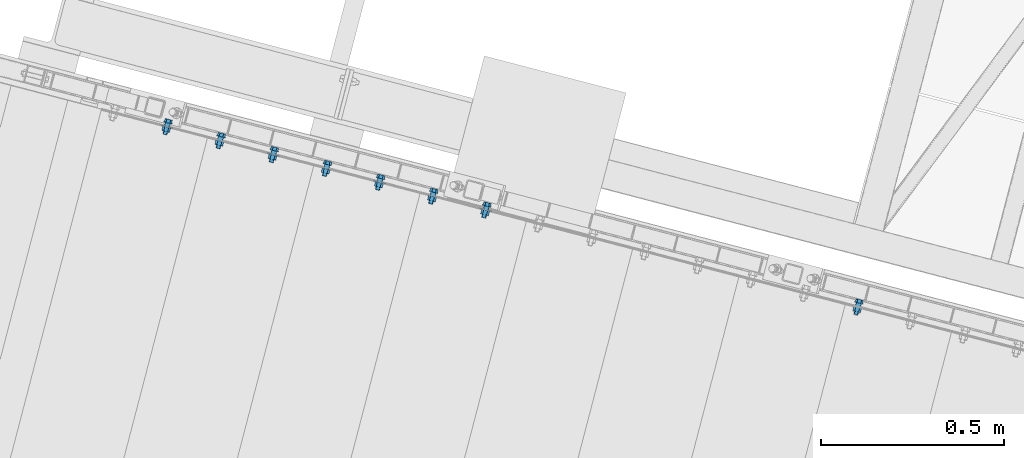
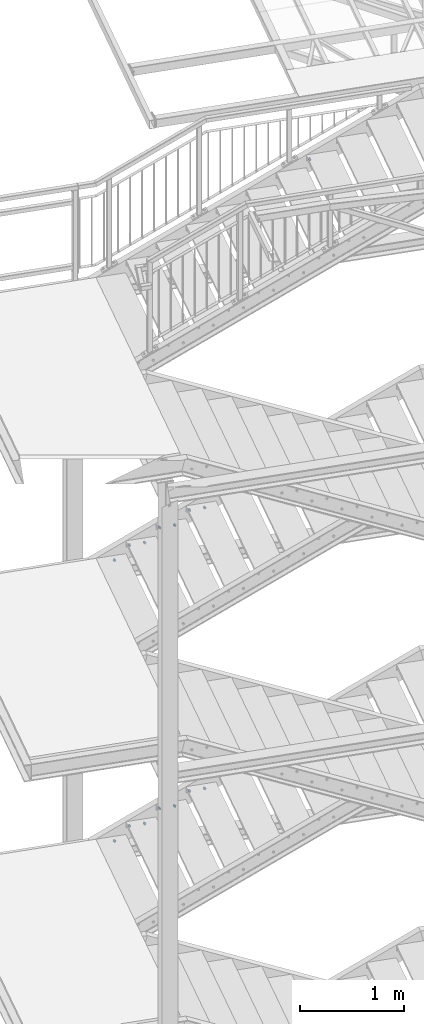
# One storey, part 149 of 169: 15 mechanical fasteners, 9 elements without a shape of their own.
"""IFC2X3 building model written with IfcOpenShell, lengths in millimetres."""

from ifc_helpers import new_model, si_unit, frame, frame_2d, origin_with_axes, origin_2d_with_axis, place, context, subcontext, project, spatial, polyline, circle_curve, parameter, trimmed, segment, composite_curve, circle, outline, extrude, source, transform, mapped, material, type_object, element, aggregate, save


model = new_model("IFC2X3")

# Units and contexts
model_context = context("Model", 3, precision=1e-05, world=origin_with_axes())
body_context = subcontext(model_context, "Body", "Model", "MODEL_VIEW")
ifc_project = project(units=[si_unit("LENGTHUNIT", "METRE", prefix="MILLI"), si_unit("AREAUNIT", "SQUARE_METRE"), si_unit("VOLUMEUNIT", "CUBIC_METRE"), si_unit("MASSUNIT", "GRAM", prefix="KILO"), si_unit("TIMEUNIT", "SECOND"), si_unit("PLANEANGLEUNIT", "RADIAN"), si_unit("SOLIDANGLEUNIT", "STERADIAN"), si_unit("THERMODYNAMICTEMPERATUREUNIT", "DEGREE_CELSIUS"), si_unit("LUMINOUSINTENSITYUNIT", "LUMEN")], contexts=[model_context])

# Site, building, storey
site_placement = place(None, origin_with_axes())
site = spatial("IfcSite", under=ifc_project, at=site_placement, Name="Undefined", CompositionType="ELEMENT")
building_placement = place(site_placement, origin_with_axes())
building = spatial("IfcBuilding", under=site, at=building_placement, Name="Undefined", CompositionType="ELEMENT")
storey_placement = place(building_placement, origin_with_axes())
storey = spatial("IfcBuildingStorey", under=building, at=storey_placement, Name="Undefined", CompositionType="ELEMENT", Elevation=0.0)

# Assembly, mechanical fastener
assembly_1_placement = place(storey_placement, origin_with_axes())
assembly_1 = element("IfcElementAssembly", 1, at=assembly_1_placement, inside=storey, Name="Steel Assembly", AssemblyPlace="NOTDEFINED", PredefinedType="RIGID_FRAME")
ifc_material = material(Name="Undefined")
discrete_accessory_type = type_object("IfcDiscreteAccessoryType", Name="Bolt assembly")
shared_shape_1 = source(origin_with_axes(), body_context, "Body", "SweptSolid", [
    extrude(circle(Radius=7.5, at=origin_2d_with_axis()), frame((0.0, -8.39999975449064, 0.0), z_axis=(0.0, 1.0, 0.0), x_axis=(1.0, 0.0, 0.0)), (0.0, 0.0, 1.0), 8.5),
    extrude(circle(Radius=7.5, at=origin_2d_with_axis()), frame((0.0, -0.100000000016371, 0.0), z_axis=(0.0, 1.0, 0.0), x_axis=(1.0, 0.0, 0.0)), (0.0, 0.0, 1.0), 3.1),
    extrude(outline(polyline([(10.39230484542, 0.0), (5.19615242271, 9.00000000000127), (-5.19615242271, 9.00000000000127), (-10.39230484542, 0.0), (-5.19615242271, -9.00000000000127), (5.19615242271, -9.00000000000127), (10.39230484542, 0.0)])), frame((0.0, -18.4999993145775, 0.0), z_axis=(0.0, 1.0, 0.0), x_axis=(1.0, 0.0, 0.0)), (0.0, 0.0, 1.0), 7.5),
    extrude(circle(Radius=6.0, at=origin_2d_with_axis()), frame((0.0, -10.9999999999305, 0.0), z_axis=(0.0, 1.0, 0.0), x_axis=(1.0, 0.0, 0.0)), (0.0, 0.0, 1.0), 35.0),
    extrude(circle(Radius=12.0, at=origin_2d_with_axis()), frame((0.0, -10.9999999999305, 0.0), z_axis=(0.0, 1.0, 0.0), x_axis=(1.0, 0.0, 0.0)), (0.0, 0.0, 1.0), 2.5),
    extrude(circle(Radius=12.0, at=origin_2d_with_axis()), frame((0.0, 2.99999999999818, 0.0), z_axis=(0.0, 1.0, 0.0), x_axis=(1.0, 0.0, 0.0)), (0.0, 0.0, 1.0), 2.5),
    extrude(outline(polyline([(10.96965511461, 0.0), (5.484827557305, 9.50000000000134), (-5.484827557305, 9.50000000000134), (-10.96965511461, 0.0), (-5.484827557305, -9.50000000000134), (5.484827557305, -9.50000000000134), (10.96965511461, 0.0)])), frame((0.0, 5.50000000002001, 0.0), z_axis=(0.0, 1.0, 0.0), x_axis=(1.0, 0.0, 0.0)), (0.0, 0.0, 1.0), 10.0),
])
mechanical_fastener_1_placement = place(assembly_1_placement, frame((-25533.9285862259, 8234.1299563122, 13400.0957858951), z_axis=(-2.54700353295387e-10, 0.0, -1.0), x_axis=(0.967580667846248, -0.252562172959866, 0.0)))
mechanical_fastener_1 = element("IfcMechanicalFastener", 2, at=mechanical_fastener_1_placement, type_object=discrete_accessory_type, material=ifc_material, Name="Bolt assembly", NominalDiameter=12.0, NominalLength=35.0, context=body_context, shape_type="MappedRepresentation", body=[
    mapped(shared_shape_1, transform((35.0000000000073, -1.23691279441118e-10, 25.0))),
])
aggregate(assembly_1, [mechanical_fastener_1])

assembly_2_placement = place(storey_placement, origin_with_axes())
assembly_2 = element("IfcElementAssembly", 3, at=assembly_2_placement, inside=storey, Name="Steel Assembly", AssemblyPlace="NOTDEFINED", PredefinedType="RIGID_FRAME")
mechanical_fastener_2_placement = place(assembly_2_placement, frame((-26695.1394785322, 8536.76765258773, 9500.09581681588), z_axis=(-2.54700353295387e-10, 0.0, -1.0), x_axis=(0.967580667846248, -0.252562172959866, 0.0)))
mechanical_fastener_2 = element("IfcMechanicalFastener", 4, at=mechanical_fastener_2_placement, type_object=discrete_accessory_type, material=ifc_material, Name="Bolt assembly", NominalDiameter=12.0, NominalLength=35.0, context=body_context, shape_type="MappedRepresentation", body=[
    mapped(shared_shape_1, transform((35.0000000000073, -1.23691279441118e-10, 25.0))),
])

assembly_3_placement = place(storey_placement, origin_with_axes())
assembly_3 = element("IfcElementAssembly", 5, at=assembly_3_placement, inside=storey, Name="Steel Assembly", AssemblyPlace="NOTDEFINED", PredefinedType="RIGID_FRAME")
mechanical_fastener_3_placement = place(assembly_3_placement, frame((-26985.4136822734, 8612.53630539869, 9350.09581681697), z_axis=(-2.54700353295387e-10, 0.0, -1.0), x_axis=(0.967580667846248, -0.252562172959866, 0.0)))
mechanical_fastener_3 = element("IfcMechanicalFastener", 6, at=mechanical_fastener_3_placement, type_object=discrete_accessory_type, material=ifc_material, Name="Bolt assembly", NominalDiameter=12.0, NominalLength=35.0, context=body_context, shape_type="MappedRepresentation", body=[
    mapped(shared_shape_1, transform((35.0000000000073, -1.23691279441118e-10, 25.0))),
])

assembly_4_placement = place(storey_placement, origin_with_axes())
assembly_4 = element("IfcElementAssembly", 7, at=assembly_4_placement, inside=storey, Name="Steel Assembly", AssemblyPlace="NOTDEFINED", PredefinedType="RIGID_FRAME")
mechanical_fastener_4_placement = place(assembly_4_placement, frame((-27275.6878860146, 8688.30495820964, 9200.09581681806), z_axis=(-2.54700353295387e-10, 0.0, -1.0), x_axis=(0.967580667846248, -0.252562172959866, 0.0)))
mechanical_fastener_4 = element("IfcMechanicalFastener", 8, at=mechanical_fastener_4_placement, type_object=discrete_accessory_type, material=ifc_material, Name="Bolt assembly", NominalDiameter=12.0, NominalLength=35.0, context=body_context, shape_type="MappedRepresentation", body=[
    mapped(shared_shape_1, transform((35.0000000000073, -1.23691279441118e-10, 25.0))),
])

assembly_5_placement = place(storey_placement, origin_with_axes())
assembly_5 = element("IfcElementAssembly", 9, at=assembly_5_placement, inside=storey, Name="Steel Assembly", AssemblyPlace="NOTDEFINED", PredefinedType="RIGID_FRAME")
mechanical_fastener_5_placement = place(assembly_5_placement, frame((-26695.2535559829, 8536.33073763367, 6200.09584769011), z_axis=(-2.54700353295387e-10, 0.0, -1.0), x_axis=(0.967580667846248, -0.252562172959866, 0.0)))
mechanical_fastener_5 = element("IfcMechanicalFastener", 10, at=mechanical_fastener_5_placement, type_object=discrete_accessory_type, material=ifc_material, Name="Bolt assembly", NominalDiameter=12.0, NominalLength=35.0, context=body_context, shape_type="MappedRepresentation", body=[
    mapped(shared_shape_1, transform((35.0000000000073, -1.23691279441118e-10, 25.0))),
])

assembly_6_placement = place(storey_placement, origin_with_axes())
assembly_6 = element("IfcElementAssembly", 11, at=assembly_6_placement, inside=storey, Name="Steel Assembly", AssemblyPlace="NOTDEFINED", PredefinedType="RIGID_FRAME")
mechanical_fastener_6_placement = place(assembly_6_placement, frame((-26985.5277597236, 8612.09939044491, 6050.09584769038), z_axis=(-2.54700353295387e-10, 0.0, -1.0), x_axis=(0.967580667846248, -0.252562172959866, 0.0)))
mechanical_fastener_6 = element("IfcMechanicalFastener", 12, at=mechanical_fastener_6_placement, type_object=discrete_accessory_type, material=ifc_material, Name="Bolt assembly", NominalDiameter=12.0, NominalLength=35.0, context=body_context, shape_type="MappedRepresentation", body=[
    mapped(shared_shape_1, transform((35.0000000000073, -1.23691279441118e-10, 25.0))),
])

assembly_7_placement = place(storey_placement, origin_with_axes())
assembly_7 = element("IfcElementAssembly", 13, at=assembly_7_placement, inside=storey, Name="Steel Assembly", AssemblyPlace="NOTDEFINED", PredefinedType="RIGID_FRAME")
mechanical_fastener_7_placement = place(assembly_7_placement, frame((-27275.8019634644, 8687.86804325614, 5900.09584769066), z_axis=(-2.54700353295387e-10, 0.0, -1.0), x_axis=(0.967580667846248, -0.252562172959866, 0.0)))
mechanical_fastener_7 = element("IfcMechanicalFastener", 14, at=mechanical_fastener_7_placement, type_object=discrete_accessory_type, material=ifc_material, Name="Bolt assembly", NominalDiameter=12.0, NominalLength=35.0, context=body_context, shape_type="MappedRepresentation", body=[
    mapped(shared_shape_1, transform((35.0000000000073, -1.23691279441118e-10, 25.0))),
])

# Mechanical fastener
shared_shape_2 = source(origin_with_axes(), body_context, "Body", "SweptSolid", [
    extrude(circle(Radius=7.5, at=origin_2d_with_axis()), frame((0.0, -8.39999975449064, 0.0), z_axis=(0.0, 1.0, 0.0), x_axis=(1.0, 0.0, 0.0)), (0.0, 0.0, 1.0), 8.5),
    extrude(outline(composite_curve([segment(polyline([(-10.0, 7.5), (10.0, 7.5)]), True, "CONTINUOUS"), segment(trimmed(circle_curve(frame_2d((10.0, 0.0), x_axis=(0.0, 1.0)), 7.5), [parameter(0.0)], [parameter(3.14159265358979)], False, "PARAMETER"), True, "CONTINUOUS"), segment(polyline([(10.0, -7.5), (-10.0, -7.5)]), True, "CONTINUOUS"), segment(trimmed(circle_curve(frame_2d((-10.0, 0.0), x_axis=(0.0, -1.0)), 7.5), [parameter(0.0)], [parameter(3.14159265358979)], False, "PARAMETER"), True, "DISCONTINUOUS")], self_intersect=False)), frame((0.0, -0.100000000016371, 0.0), z_axis=(0.0, 1.0, 0.0), x_axis=(1.0, 0.0, 0.0)), (0.0, 0.0, 1.0), 3.1),
    extrude(outline(polyline([(10.39230484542, 0.0), (5.19615242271, 9.00000000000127), (-5.19615242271, 9.00000000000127), (-10.39230484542, 0.0), (-5.19615242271, -9.00000000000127), (5.19615242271, -9.00000000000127), (10.39230484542, 0.0)])), frame((0.0, -18.4999993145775, 0.0), z_axis=(0.0, 1.0, 0.0), x_axis=(1.0, 0.0, 0.0)), (0.0, 0.0, 1.0), 7.5),
    extrude(circle(Radius=6.0, at=origin_2d_with_axis()), frame((0.0, -10.9999999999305, 0.0), z_axis=(0.0, 1.0, 0.0), x_axis=(1.0, 0.0, 0.0)), (0.0, 0.0, 1.0), 35.0),
    extrude(circle(Radius=12.0, at=origin_2d_with_axis()), frame((0.0, -10.9999999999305, 0.0), z_axis=(0.0, 1.0, 0.0), x_axis=(1.0, 0.0, 0.0)), (0.0, 0.0, 1.0), 2.5),
    extrude(circle(Radius=12.0, at=origin_2d_with_axis()), frame((0.0, 2.99999999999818, 0.0), z_axis=(0.0, 1.0, 0.0), x_axis=(1.0, 0.0, 0.0)), (0.0, 0.0, 1.0), 2.5),
    extrude(outline(polyline([(10.96965511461, 0.0), (5.484827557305, 9.50000000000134), (-5.484827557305, 9.50000000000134), (-10.96965511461, 0.0), (-5.484827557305, -9.50000000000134), (5.484827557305, -9.50000000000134), (10.96965511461, 0.0)])), frame((0.0, 5.50000000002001, 0.0), z_axis=(0.0, 1.0, 0.0), x_axis=(1.0, 0.0, 0.0)), (0.0, 0.0, 1.0), 10.0),
])
mechanical_fastener_8_placement = place(assembly_2_placement, frame((-26695.1394785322, 8536.76765258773, 9500.09581681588), z_axis=(-2.54700353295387e-10, 0.0, -1.0), x_axis=(0.967580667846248, -0.252562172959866, 0.0)))
mechanical_fastener_8 = element("IfcMechanicalFastener", 15, at=mechanical_fastener_8_placement, type_object=discrete_accessory_type, material=ifc_material, Name="Bolt assembly", NominalDiameter=12.0, NominalLength=35.0, context=body_context, shape_type="MappedRepresentation", body=[
    mapped(shared_shape_2, transform((185.00000000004, -6.51198206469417e-10, 25.0))),
])

aggregate(assembly_2, [mechanical_fastener_8, mechanical_fastener_2])

shared_shape_3 = source(origin_with_axes(), body_context, "Body", "SweptSolid", [
    extrude(circle(Radius=7.5, at=origin_2d_with_axis()), frame((0.0, -8.39999975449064, 0.0), z_axis=(0.0, 1.0, 0.0), x_axis=(1.0, 0.0, 0.0)), (0.0, 0.0, 1.0), 8.5),
    extrude(outline(composite_curve([segment(polyline([(-10.0, 7.5), (10.0, 7.5)]), True, "CONTINUOUS"), segment(trimmed(circle_curve(frame_2d((10.0, 0.0), x_axis=(0.0, 1.0)), 7.5), [parameter(0.0)], [parameter(3.14159265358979)], False, "PARAMETER"), True, "CONTINUOUS"), segment(polyline([(10.0, -7.5), (-10.0, -7.5)]), True, "CONTINUOUS"), segment(trimmed(circle_curve(frame_2d((-10.0, 0.0), x_axis=(0.0, -1.0)), 7.5), [parameter(0.0)], [parameter(3.14159265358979)], False, "PARAMETER"), True, "DISCONTINUOUS")], self_intersect=False)), frame((0.0, -0.100000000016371, 0.0), z_axis=(0.0, 1.0, 0.0), x_axis=(1.0, 0.0, 0.0)), (0.0, 0.0, 1.0), 3.1),
    extrude(outline(polyline([(10.39230484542, 0.0), (5.19615242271, 9.00000000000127), (-5.19615242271, 9.00000000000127), (-10.39230484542, 0.0), (-5.19615242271, -9.00000000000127), (5.19615242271, -9.00000000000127), (10.39230484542, 0.0)])), frame((0.0, -18.4999993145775, 0.0), z_axis=(0.0, 1.0, 0.0), x_axis=(1.0, 0.0, 0.0)), (0.0, 0.0, 1.0), 7.5),
    extrude(circle(Radius=6.0, at=origin_2d_with_axis()), frame((0.0, -10.9999999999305, 0.0), z_axis=(0.0, 1.0, 0.0), x_axis=(1.0, 0.0, 0.0)), (0.0, 0.0, 1.0), 35.0),
    extrude(circle(Radius=12.0, at=origin_2d_with_axis()), frame((0.0, -10.9999999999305, 0.0), z_axis=(0.0, 1.0, 0.0), x_axis=(1.0, 0.0, 0.0)), (0.0, 0.0, 1.0), 2.5),
    extrude(circle(Radius=12.0, at=origin_2d_with_axis()), frame((0.0, 2.99999999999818, 0.0), z_axis=(0.0, 1.0, 0.0), x_axis=(1.0, 0.0, 0.0)), (0.0, 0.0, 1.0), 2.5),
    extrude(outline(polyline([(10.96965511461, 0.0), (5.484827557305, 9.50000000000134), (-5.484827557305, 9.50000000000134), (-10.96965511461, 0.0), (-5.484827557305, -9.50000000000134), (5.484827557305, -9.50000000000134), (10.96965511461, 0.0)])), frame((0.0, 5.50000000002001, 0.0), z_axis=(0.0, 1.0, 0.0), x_axis=(1.0, 0.0, 0.0)), (0.0, 0.0, 1.0), 10.0),
])
mechanical_fastener_9_placement = place(assembly_3_placement, frame((-26985.4136822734, 8612.53630539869, 9350.09581681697), z_axis=(-2.54700353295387e-10, 0.0, -1.0), x_axis=(0.967580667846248, -0.252562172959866, 0.0)))
mechanical_fastener_9 = element("IfcMechanicalFastener", 16, at=mechanical_fastener_9_placement, type_object=discrete_accessory_type, material=ifc_material, Name="Bolt assembly", NominalDiameter=12.0, NominalLength=35.0, context=body_context, shape_type="MappedRepresentation", body=[
    mapped(shared_shape_3, transform((185.00000000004, -6.51198206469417e-10, 25.0))),
])

aggregate(assembly_3, [mechanical_fastener_9, mechanical_fastener_3])

shared_shape_4 = source(origin_with_axes(), body_context, "Body", "SweptSolid", [
    extrude(circle(Radius=7.5, at=origin_2d_with_axis()), frame((0.0, -8.39999975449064, 0.0), z_axis=(0.0, 1.0, 0.0), x_axis=(1.0, 0.0, 0.0)), (0.0, 0.0, 1.0), 8.5),
    extrude(outline(composite_curve([segment(polyline([(-10.0, 7.5), (10.0, 7.5)]), True, "CONTINUOUS"), segment(trimmed(circle_curve(frame_2d((10.0, 0.0), x_axis=(0.0, 1.0)), 7.5), [parameter(0.0)], [parameter(3.14159265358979)], False, "PARAMETER"), True, "CONTINUOUS"), segment(polyline([(10.0, -7.5), (-10.0, -7.5)]), True, "CONTINUOUS"), segment(trimmed(circle_curve(frame_2d((-10.0, 0.0), x_axis=(0.0, -1.0)), 7.5), [parameter(0.0)], [parameter(3.14159265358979)], False, "PARAMETER"), True, "DISCONTINUOUS")], self_intersect=False)), frame((0.0, -0.100000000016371, 0.0), z_axis=(0.0, 1.0, 0.0), x_axis=(1.0, 0.0, 0.0)), (0.0, 0.0, 1.0), 3.1),
    extrude(outline(polyline([(10.39230484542, 0.0), (5.19615242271, 9.00000000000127), (-5.19615242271, 9.00000000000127), (-10.39230484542, 0.0), (-5.19615242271, -9.00000000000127), (5.19615242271, -9.00000000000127), (10.39230484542, 0.0)])), frame((0.0, -18.4999993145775, 0.0), z_axis=(0.0, 1.0, 0.0), x_axis=(1.0, 0.0, 0.0)), (0.0, 0.0, 1.0), 7.5),
    extrude(circle(Radius=6.0, at=origin_2d_with_axis()), frame((0.0, -10.9999999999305, 0.0), z_axis=(0.0, 1.0, 0.0), x_axis=(1.0, 0.0, 0.0)), (0.0, 0.0, 1.0), 35.0),
    extrude(circle(Radius=12.0, at=origin_2d_with_axis()), frame((0.0, -10.9999999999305, 0.0), z_axis=(0.0, 1.0, 0.0), x_axis=(1.0, 0.0, 0.0)), (0.0, 0.0, 1.0), 2.5),
    extrude(circle(Radius=12.0, at=origin_2d_with_axis()), frame((0.0, 2.99999999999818, 0.0), z_axis=(0.0, 1.0, 0.0), x_axis=(1.0, 0.0, 0.0)), (0.0, 0.0, 1.0), 2.5),
    extrude(outline(polyline([(10.96965511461, 0.0), (5.484827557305, 9.50000000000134), (-5.484827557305, 9.50000000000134), (-10.96965511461, 0.0), (-5.484827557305, -9.50000000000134), (5.484827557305, -9.50000000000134), (10.96965511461, 0.0)])), frame((0.0, 5.50000000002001, 0.0), z_axis=(0.0, 1.0, 0.0), x_axis=(1.0, 0.0, 0.0)), (0.0, 0.0, 1.0), 10.0),
])
mechanical_fastener_10_placement = place(assembly_4_placement, frame((-27275.6878860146, 8688.30495820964, 9200.09581681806), z_axis=(-2.54700353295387e-10, 0.0, -1.0), x_axis=(0.967580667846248, -0.252562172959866, 0.0)))
mechanical_fastener_10 = element("IfcMechanicalFastener", 17, at=mechanical_fastener_10_placement, type_object=discrete_accessory_type, material=ifc_material, Name="Bolt assembly", NominalDiameter=12.0, NominalLength=35.0, context=body_context, shape_type="MappedRepresentation", body=[
    mapped(shared_shape_4, transform((185.00000000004, -6.51198206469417e-10, 25.0))),
])

aggregate(assembly_4, [mechanical_fastener_10, mechanical_fastener_4])

# Assembly, mechanical fastener
assembly_8_placement = place(storey_placement, origin_with_axes())
assembly_8 = element("IfcElementAssembly", 18, at=assembly_8_placement, inside=storey, Name="Steel Assembly", AssemblyPlace="NOTDEFINED", PredefinedType="RIGID_FRAME")
shared_shape_5 = source(origin_with_axes(), body_context, "Body", "SweptSolid", [
    extrude(circle(Radius=7.5, at=origin_2d_with_axis()), frame((0.0, -8.39999975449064, 0.0), z_axis=(0.0, 1.0, 0.0), x_axis=(1.0, 0.0, 0.0)), (0.0, 0.0, 1.0), 8.5),
    extrude(outline(composite_curve([segment(polyline([(-10.0, 7.5), (10.0, 7.5)]), True, "CONTINUOUS"), segment(trimmed(circle_curve(frame_2d((10.0, 0.0), x_axis=(0.0, 1.0)), 7.5), [parameter(0.0)], [parameter(3.14159265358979)], False, "PARAMETER"), True, "CONTINUOUS"), segment(polyline([(10.0, -7.5), (-10.0, -7.5)]), True, "CONTINUOUS"), segment(trimmed(circle_curve(frame_2d((-10.0, 0.0), x_axis=(0.0, -1.0)), 7.5), [parameter(0.0)], [parameter(3.14159265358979)], False, "PARAMETER"), True, "DISCONTINUOUS")], self_intersect=False)), frame((0.0, -0.100000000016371, 0.0), z_axis=(0.0, 1.0, 0.0), x_axis=(1.0, 0.0, 0.0)), (0.0, 0.0, 1.0), 3.1),
    extrude(outline(polyline([(10.39230484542, 0.0), (5.19615242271, 9.00000000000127), (-5.19615242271, 9.00000000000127), (-10.39230484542, 0.0), (-5.19615242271, -9.00000000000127), (5.19615242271, -9.00000000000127), (10.39230484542, 0.0)])), frame((0.0, -18.4999993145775, 0.0), z_axis=(0.0, 1.0, 0.0), x_axis=(1.0, 0.0, 0.0)), (0.0, 0.0, 1.0), 7.5),
    extrude(circle(Radius=6.0, at=origin_2d_with_axis()), frame((0.0, -10.9999999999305, 0.0), z_axis=(0.0, 1.0, 0.0), x_axis=(1.0, 0.0, 0.0)), (0.0, 0.0, 1.0), 35.0),
    extrude(circle(Radius=12.0, at=origin_2d_with_axis()), frame((0.0, -10.9999999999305, 0.0), z_axis=(0.0, 1.0, 0.0), x_axis=(1.0, 0.0, 0.0)), (0.0, 0.0, 1.0), 2.5),
    extrude(circle(Radius=12.0, at=origin_2d_with_axis()), frame((0.0, 2.99999999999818, 0.0), z_axis=(0.0, 1.0, 0.0), x_axis=(1.0, 0.0, 0.0)), (0.0, 0.0, 1.0), 2.5),
    extrude(outline(polyline([(10.96965511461, 0.0), (5.484827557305, 9.50000000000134), (-5.484827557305, 9.50000000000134), (-10.96965511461, 0.0), (-5.484827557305, -9.50000000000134), (5.484827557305, -9.50000000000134), (10.96965511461, 0.0)])), frame((0.0, 5.50000000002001, 0.0), z_axis=(0.0, 1.0, 0.0), x_axis=(1.0, 0.0, 0.0)), (0.0, 0.0, 1.0), 10.0),
])
mechanical_fastener_11_placement = place(assembly_8_placement, frame((-27565.9620897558, 8764.0736110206, 9050.09581681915), z_axis=(-2.54700353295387e-10, 0.0, -1.0), x_axis=(0.967580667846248, -0.252562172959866, 0.0)))
mechanical_fastener_11 = element("IfcMechanicalFastener", 19, at=mechanical_fastener_11_placement, type_object=discrete_accessory_type, material=ifc_material, Name="Bolt assembly", NominalDiameter=12.0, NominalLength=35.0, context=body_context, shape_type="MappedRepresentation", body=[
    mapped(shared_shape_5, transform((185.00000000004, -6.51198206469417e-10, 25.0))),
])
aggregate(assembly_8, [mechanical_fastener_11])

# Mechanical fastener
shared_shape_6 = source(origin_with_axes(), body_context, "Body", "SweptSolid", [
    extrude(circle(Radius=7.5, at=origin_2d_with_axis()), frame((0.0, -8.39999975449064, 0.0), z_axis=(0.0, 1.0, 0.0), x_axis=(1.0, 0.0, 0.0)), (0.0, 0.0, 1.0), 8.5),
    extrude(outline(composite_curve([segment(polyline([(-10.0, 7.5), (10.0, 7.5)]), True, "CONTINUOUS"), segment(trimmed(circle_curve(frame_2d((10.0, 0.0), x_axis=(0.0, 1.0)), 7.5), [parameter(0.0)], [parameter(3.14159265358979)], False, "PARAMETER"), True, "CONTINUOUS"), segment(polyline([(10.0, -7.5), (-10.0, -7.5)]), True, "CONTINUOUS"), segment(trimmed(circle_curve(frame_2d((-10.0, 0.0), x_axis=(0.0, -1.0)), 7.5), [parameter(0.0)], [parameter(3.14159265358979)], False, "PARAMETER"), True, "DISCONTINUOUS")], self_intersect=False)), frame((0.0, -0.100000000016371, 0.0), z_axis=(0.0, 1.0, 0.0), x_axis=(1.0, 0.0, 0.0)), (0.0, 0.0, 1.0), 3.1),
    extrude(outline(polyline([(10.39230484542, 0.0), (5.19615242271, 9.00000000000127), (-5.19615242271, 9.00000000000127), (-10.39230484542, 0.0), (-5.19615242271, -9.00000000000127), (5.19615242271, -9.00000000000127), (10.39230484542, 0.0)])), frame((0.0, -18.4999993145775, 0.0), z_axis=(0.0, 1.0, 0.0), x_axis=(1.0, 0.0, 0.0)), (0.0, 0.0, 1.0), 7.5),
    extrude(circle(Radius=6.0, at=origin_2d_with_axis()), frame((0.0, -10.9999999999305, 0.0), z_axis=(0.0, 1.0, 0.0), x_axis=(1.0, 0.0, 0.0)), (0.0, 0.0, 1.0), 35.0),
    extrude(circle(Radius=12.0, at=origin_2d_with_axis()), frame((0.0, -10.9999999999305, 0.0), z_axis=(0.0, 1.0, 0.0), x_axis=(1.0, 0.0, 0.0)), (0.0, 0.0, 1.0), 2.5),
    extrude(circle(Radius=12.0, at=origin_2d_with_axis()), frame((0.0, 2.99999999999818, 0.0), z_axis=(0.0, 1.0, 0.0), x_axis=(1.0, 0.0, 0.0)), (0.0, 0.0, 1.0), 2.5),
    extrude(outline(polyline([(10.96965511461, 0.0), (5.484827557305, 9.50000000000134), (-5.484827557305, 9.50000000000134), (-10.96965511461, 0.0), (-5.484827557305, -9.50000000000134), (5.484827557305, -9.50000000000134), (10.96965511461, 0.0)])), frame((0.0, 5.50000000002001, 0.0), z_axis=(0.0, 1.0, 0.0), x_axis=(1.0, 0.0, 0.0)), (0.0, 0.0, 1.0), 10.0),
])
mechanical_fastener_12_placement = place(assembly_5_placement, frame((-26695.2535559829, 8536.33073763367, 6200.09584769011), z_axis=(-2.54700353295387e-10, 0.0, -1.0), x_axis=(0.967580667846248, -0.252562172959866, 0.0)))
mechanical_fastener_12 = element("IfcMechanicalFastener", 20, at=mechanical_fastener_12_placement, type_object=discrete_accessory_type, material=ifc_material, Name="Bolt assembly", NominalDiameter=12.0, NominalLength=35.0, context=body_context, shape_type="MappedRepresentation", body=[
    mapped(shared_shape_6, transform((185.00000000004, -6.51198206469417e-10, 25.0))),
])

aggregate(assembly_5, [mechanical_fastener_12, mechanical_fastener_5])

shared_shape_7 = source(origin_with_axes(), body_context, "Body", "SweptSolid", [
    extrude(circle(Radius=7.5, at=origin_2d_with_axis()), frame((0.0, -8.39999975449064, 0.0), z_axis=(0.0, 1.0, 0.0), x_axis=(1.0, 0.0, 0.0)), (0.0, 0.0, 1.0), 8.5),
    extrude(outline(composite_curve([segment(polyline([(-10.0, 7.5), (10.0, 7.5)]), True, "CONTINUOUS"), segment(trimmed(circle_curve(frame_2d((10.0, 0.0), x_axis=(0.0, 1.0)), 7.5), [parameter(0.0)], [parameter(3.14159265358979)], False, "PARAMETER"), True, "CONTINUOUS"), segment(polyline([(10.0, -7.5), (-10.0, -7.5)]), True, "CONTINUOUS"), segment(trimmed(circle_curve(frame_2d((-10.0, 0.0), x_axis=(0.0, -1.0)), 7.5), [parameter(0.0)], [parameter(3.14159265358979)], False, "PARAMETER"), True, "DISCONTINUOUS")], self_intersect=False)), frame((0.0, -0.100000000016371, 0.0), z_axis=(0.0, 1.0, 0.0), x_axis=(1.0, 0.0, 0.0)), (0.0, 0.0, 1.0), 3.1),
    extrude(outline(polyline([(10.39230484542, 0.0), (5.19615242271, 9.00000000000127), (-5.19615242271, 9.00000000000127), (-10.39230484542, 0.0), (-5.19615242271, -9.00000000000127), (5.19615242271, -9.00000000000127), (10.39230484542, 0.0)])), frame((0.0, -18.4999993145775, 0.0), z_axis=(0.0, 1.0, 0.0), x_axis=(1.0, 0.0, 0.0)), (0.0, 0.0, 1.0), 7.5),
    extrude(circle(Radius=6.0, at=origin_2d_with_axis()), frame((0.0, -10.9999999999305, 0.0), z_axis=(0.0, 1.0, 0.0), x_axis=(1.0, 0.0, 0.0)), (0.0, 0.0, 1.0), 35.0),
    extrude(circle(Radius=12.0, at=origin_2d_with_axis()), frame((0.0, -10.9999999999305, 0.0), z_axis=(0.0, 1.0, 0.0), x_axis=(1.0, 0.0, 0.0)), (0.0, 0.0, 1.0), 2.5),
    extrude(circle(Radius=12.0, at=origin_2d_with_axis()), frame((0.0, 2.99999999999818, 0.0), z_axis=(0.0, 1.0, 0.0), x_axis=(1.0, 0.0, 0.0)), (0.0, 0.0, 1.0), 2.5),
    extrude(outline(polyline([(10.96965511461, 0.0), (5.484827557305, 9.50000000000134), (-5.484827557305, 9.50000000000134), (-10.96965511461, 0.0), (-5.484827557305, -9.50000000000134), (5.484827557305, -9.50000000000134), (10.96965511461, 0.0)])), frame((0.0, 5.50000000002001, 0.0), z_axis=(0.0, 1.0, 0.0), x_axis=(1.0, 0.0, 0.0)), (0.0, 0.0, 1.0), 10.0),
])
mechanical_fastener_13_placement = place(assembly_6_placement, frame((-26985.5277597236, 8612.09939044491, 6050.09584769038), z_axis=(-2.54700353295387e-10, 0.0, -1.0), x_axis=(0.967580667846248, -0.252562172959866, 0.0)))
mechanical_fastener_13 = element("IfcMechanicalFastener", 21, at=mechanical_fastener_13_placement, type_object=discrete_accessory_type, material=ifc_material, Name="Bolt assembly", NominalDiameter=12.0, NominalLength=35.0, context=body_context, shape_type="MappedRepresentation", body=[
    mapped(shared_shape_7, transform((185.00000000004, -6.51198206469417e-10, 25.0))),
])

aggregate(assembly_6, [mechanical_fastener_13, mechanical_fastener_6])

shared_shape_8 = source(origin_with_axes(), body_context, "Body", "SweptSolid", [
    extrude(circle(Radius=7.5, at=origin_2d_with_axis()), frame((0.0, -8.39999975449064, 0.0), z_axis=(0.0, 1.0, 0.0), x_axis=(1.0, 0.0, 0.0)), (0.0, 0.0, 1.0), 8.5),
    extrude(outline(composite_curve([segment(polyline([(-10.0, 7.5), (10.0, 7.5)]), True, "CONTINUOUS"), segment(trimmed(circle_curve(frame_2d((10.0, 0.0), x_axis=(0.0, 1.0)), 7.5), [parameter(0.0)], [parameter(3.14159265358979)], False, "PARAMETER"), True, "CONTINUOUS"), segment(polyline([(10.0, -7.5), (-10.0, -7.5)]), True, "CONTINUOUS"), segment(trimmed(circle_curve(frame_2d((-10.0, 0.0), x_axis=(0.0, -1.0)), 7.5), [parameter(0.0)], [parameter(3.14159265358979)], False, "PARAMETER"), True, "DISCONTINUOUS")], self_intersect=False)), frame((0.0, -0.100000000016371, 0.0), z_axis=(0.0, 1.0, 0.0), x_axis=(1.0, 0.0, 0.0)), (0.0, 0.0, 1.0), 3.1),
    extrude(outline(polyline([(10.39230484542, 0.0), (5.19615242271, 9.00000000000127), (-5.19615242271, 9.00000000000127), (-10.39230484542, 0.0), (-5.19615242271, -9.00000000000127), (5.19615242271, -9.00000000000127), (10.39230484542, 0.0)])), frame((0.0, -18.4999993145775, 0.0), z_axis=(0.0, 1.0, 0.0), x_axis=(1.0, 0.0, 0.0)), (0.0, 0.0, 1.0), 7.5),
    extrude(circle(Radius=6.0, at=origin_2d_with_axis()), frame((0.0, -10.9999999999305, 0.0), z_axis=(0.0, 1.0, 0.0), x_axis=(1.0, 0.0, 0.0)), (0.0, 0.0, 1.0), 35.0),
    extrude(circle(Radius=12.0, at=origin_2d_with_axis()), frame((0.0, -10.9999999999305, 0.0), z_axis=(0.0, 1.0, 0.0), x_axis=(1.0, 0.0, 0.0)), (0.0, 0.0, 1.0), 2.5),
    extrude(circle(Radius=12.0, at=origin_2d_with_axis()), frame((0.0, 2.99999999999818, 0.0), z_axis=(0.0, 1.0, 0.0), x_axis=(1.0, 0.0, 0.0)), (0.0, 0.0, 1.0), 2.5),
    extrude(outline(polyline([(10.96965511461, 0.0), (5.484827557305, 9.50000000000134), (-5.484827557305, 9.50000000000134), (-10.96965511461, 0.0), (-5.484827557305, -9.50000000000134), (5.484827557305, -9.50000000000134), (10.96965511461, 0.0)])), frame((0.0, 5.50000000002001, 0.0), z_axis=(0.0, 1.0, 0.0), x_axis=(1.0, 0.0, 0.0)), (0.0, 0.0, 1.0), 10.0),
])
mechanical_fastener_14_placement = place(assembly_7_placement, frame((-27275.8019634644, 8687.86804325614, 5900.09584769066), z_axis=(-2.54700353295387e-10, 0.0, -1.0), x_axis=(0.967580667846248, -0.252562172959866, 0.0)))
mechanical_fastener_14 = element("IfcMechanicalFastener", 22, at=mechanical_fastener_14_placement, type_object=discrete_accessory_type, material=ifc_material, Name="Bolt assembly", NominalDiameter=12.0, NominalLength=35.0, context=body_context, shape_type="MappedRepresentation", body=[
    mapped(shared_shape_8, transform((185.00000000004, -6.51198206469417e-10, 25.0))),
])

aggregate(assembly_7, [mechanical_fastener_14, mechanical_fastener_7])

# Assembly, mechanical fastener
assembly_9_placement = place(storey_placement, origin_with_axes())
assembly_9 = element("IfcElementAssembly", 23, at=assembly_9_placement, inside=storey, Name="Steel Assembly", AssemblyPlace="NOTDEFINED", PredefinedType="RIGID_FRAME")
shared_shape_9 = source(origin_with_axes(), body_context, "Body", "SweptSolid", [
    extrude(circle(Radius=7.5, at=origin_2d_with_axis()), frame((0.0, -8.39999975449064, 0.0), z_axis=(0.0, 1.0, 0.0), x_axis=(1.0, 0.0, 0.0)), (0.0, 0.0, 1.0), 8.5),
    extrude(outline(composite_curve([segment(polyline([(-10.0, 7.5), (10.0, 7.5)]), True, "CONTINUOUS"), segment(trimmed(circle_curve(frame_2d((10.0, 0.0), x_axis=(0.0, 1.0)), 7.5), [parameter(0.0)], [parameter(3.14159265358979)], False, "PARAMETER"), True, "CONTINUOUS"), segment(polyline([(10.0, -7.5), (-10.0, -7.5)]), True, "CONTINUOUS"), segment(trimmed(circle_curve(frame_2d((-10.0, 0.0), x_axis=(0.0, -1.0)), 7.5), [parameter(0.0)], [parameter(3.14159265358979)], False, "PARAMETER"), True, "DISCONTINUOUS")], self_intersect=False)), frame((0.0, -0.100000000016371, 0.0), z_axis=(0.0, 1.0, 0.0), x_axis=(1.0, 0.0, 0.0)), (0.0, 0.0, 1.0), 3.1),
    extrude(outline(polyline([(10.39230484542, 0.0), (5.19615242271, 9.00000000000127), (-5.19615242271, 9.00000000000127), (-10.39230484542, 0.0), (-5.19615242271, -9.00000000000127), (5.19615242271, -9.00000000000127), (10.39230484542, 0.0)])), frame((0.0, -18.4999993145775, 0.0), z_axis=(0.0, 1.0, 0.0), x_axis=(1.0, 0.0, 0.0)), (0.0, 0.0, 1.0), 7.5),
    extrude(circle(Radius=6.0, at=origin_2d_with_axis()), frame((0.0, -10.9999999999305, 0.0), z_axis=(0.0, 1.0, 0.0), x_axis=(1.0, 0.0, 0.0)), (0.0, 0.0, 1.0), 35.0),
    extrude(circle(Radius=12.0, at=origin_2d_with_axis()), frame((0.0, -10.9999999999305, 0.0), z_axis=(0.0, 1.0, 0.0), x_axis=(1.0, 0.0, 0.0)), (0.0, 0.0, 1.0), 2.5),
    extrude(circle(Radius=12.0, at=origin_2d_with_axis()), frame((0.0, 2.99999999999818, 0.0), z_axis=(0.0, 1.0, 0.0), x_axis=(1.0, 0.0, 0.0)), (0.0, 0.0, 1.0), 2.5),
    extrude(outline(polyline([(10.96965511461, 0.0), (5.484827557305, 9.50000000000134), (-5.484827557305, 9.50000000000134), (-10.96965511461, 0.0), (-5.484827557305, -9.50000000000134), (5.484827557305, -9.50000000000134), (10.96965511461, 0.0)])), frame((0.0, 5.50000000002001, 0.0), z_axis=(0.0, 1.0, 0.0), x_axis=(1.0, 0.0, 0.0)), (0.0, 0.0, 1.0), 10.0),
])
mechanical_fastener_15_placement = place(assembly_9_placement, frame((-27566.0761672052, 8763.63669606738, 5750.0958476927), z_axis=(-2.54700353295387e-10, 0.0, -1.0), x_axis=(0.967580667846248, -0.252562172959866, 0.0)))
mechanical_fastener_15 = element("IfcMechanicalFastener", 24, at=mechanical_fastener_15_placement, type_object=discrete_accessory_type, material=ifc_material, Name="Bolt assembly", NominalDiameter=12.0, NominalLength=35.0, context=body_context, shape_type="MappedRepresentation", body=[
    mapped(shared_shape_9, transform((185.00000000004, -6.51198206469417e-10, 25.0))),
])
aggregate(assembly_9, [mechanical_fastener_15])

save(model, "model.ifc")
